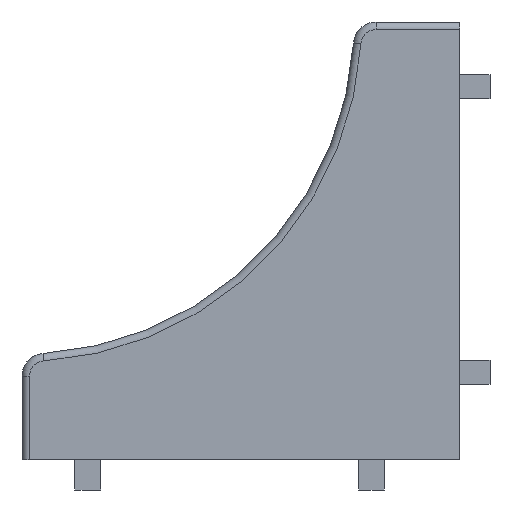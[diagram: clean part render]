
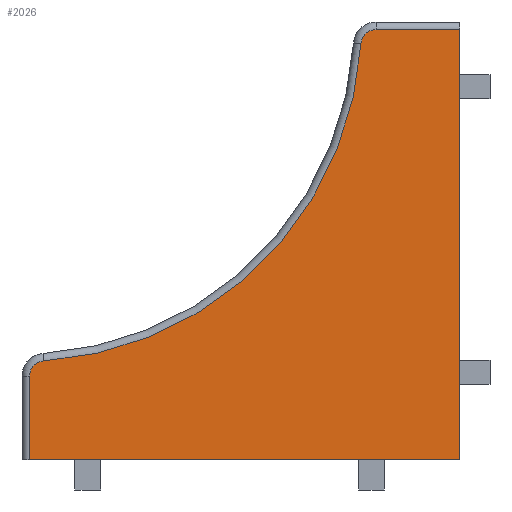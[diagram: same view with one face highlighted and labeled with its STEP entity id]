
A CAD part, left-side view. The second image highlights one B-rep face of the part: STEP entity #2026.
In plain terms, the highlighted planar face has unit normal (-1, 0, 0).
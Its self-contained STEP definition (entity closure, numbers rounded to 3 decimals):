
#43 = VERTEX_POINT ( 'NONE', #3976 ) ;
#117 = VERTEX_POINT ( 'NONE', #4040 ) ;
#136 = VERTEX_POINT ( 'NONE', #3972 ) ;
#148 = VERTEX_POINT ( 'NONE', #4048 ) ;
#303 = VERTEX_POINT ( 'NONE', #4250 ) ;
#401 = VERTEX_POINT ( 'NONE', #4264 ) ;
#406 = VERTEX_POINT ( 'NONE', #4576 ) ;
#973 = AXIS2_PLACEMENT_3D ( 'NONE', #4987, #5026, #5193 ) ;
#1006 = AXIS2_PLACEMENT_3D ( 'NONE', #5131, #5215, #5141 ) ;
#1732 = EDGE_CURVE ( 'NONE', #406, #303, #3523, .T. ) ;
#1743 = EDGE_CURVE ( 'NONE', #43, #136, #3591, .T. ) ;
#1747 = EDGE_CURVE ( 'NONE', #148, #43, #3259, .T. ) ;
#1759 = EDGE_CURVE ( 'NONE', #148, #406, #3441, .T. ) ;
#1794 = DIRECTION ( 'NONE',  ( 0., 0., -1. ) ) ;
#1807 = DIRECTION ( 'NONE',  ( -1., 0., 0. ) ) ;
#1885 = DIRECTION ( 'NONE',  ( 1., 0., 0. ) ) ;
#1909 = CARTESIAN_POINT ( 'NONE',  ( -27.5, 28.5, 0. ) ) ;
#1938 = CARTESIAN_POINT ( 'NONE',  ( -27.5, 29., 29. ) ) ;
#1943 = DIRECTION ( 'NONE',  ( 0., 0., 1. ) ) ;
#1961 = DIRECTION ( 'NONE',  ( 0., 0., 1. ) ) ;
#2001 = CARTESIAN_POINT ( 'NONE',  ( -27.5, 27.5, 5.548 ) ) ;
#2026 = ADVANCED_FACE ( 'NONE', ( #3218 ), #5091, .T. ) ;
#2268 = EDGE_CURVE ( 'NONE', #136, #117, #4756, .T. ) ;
#2276 = EDGE_CURVE ( 'NONE', #401, #303, #4617, .T. ) ;
#2279 = EDGE_CURVE ( 'NONE', #117, #401, #4589, .T. ) ;
#2367 = ORIENTED_EDGE ( 'NONE', *, *, #1732, .F. ) ;
#2470 = ORIENTED_EDGE ( 'NONE', *, *, #2276, .T. ) ;
#2472 = ORIENTED_EDGE ( 'NONE', *, *, #2279, .T. ) ;
#2474 = ORIENTED_EDGE ( 'NONE', *, *, #2268, .T. ) ;
#2476 = ORIENTED_EDGE ( 'NONE', *, *, #1743, .T. ) ;
#2478 = ORIENTED_EDGE ( 'NONE', *, *, #1747, .T. ) ;
#2480 = ORIENTED_EDGE ( 'NONE', *, *, #1759, .F. ) ;
#3015 = EDGE_LOOP ( 'NONE', ( #2480, #2478, #2476, #2474, #2472, #2470, #2367 ) ) ;
#3181 = AXIS2_PLACEMENT_3D ( 'NONE', #1938, #1885, #1961 ) ;
#3187 = AXIS2_PLACEMENT_3D ( 'NONE', #2001, #1807, #1943 ) ;
#3218 = FACE_OUTER_BOUND ( 'NONE', #3015, .T. ) ;
#3259 = LINE ( 'NONE', #5184, #3489 ) ;
#3441 = LINE ( 'NONE', #4945, #3659 ) ;
#3489 = VECTOR ( 'NONE', #5090, 1000. ) ;
#3523 = LINE ( 'NONE', #4925, #3607 ) ;
#3591 = CIRCLE ( 'NONE', #973, 1. ) ;
#3607 = VECTOR ( 'NONE', #4955, 1000. ) ;
#3659 = VECTOR ( 'NONE', #4894, 1000. ) ;
#3972 = CARTESIAN_POINT ( 'NONE',  ( -27.5, 6.546, 27.564 ) ) ;
#3976 = CARTESIAN_POINT ( 'NONE',  ( -27.5, 5.548, 28.5 ) ) ;
#4040 = CARTESIAN_POINT ( 'NONE',  ( -27.5, 27.564, 6.546 ) ) ;
#4048 = CARTESIAN_POINT ( 'NONE',  ( -27.5, 0., 28.5 ) ) ;
#4250 = CARTESIAN_POINT ( 'NONE',  ( -27.5, 28.5, 0. ) ) ;
#4264 = CARTESIAN_POINT ( 'NONE',  ( -27.5, 28.5, 5.548 ) ) ;
#4576 = CARTESIAN_POINT ( 'NONE',  ( -27.5, 0., 0. ) ) ;
#4589 = CIRCLE ( 'NONE', #3187, 1. ) ;
#4617 = LINE ( 'NONE', #1909, #4678 ) ;
#4678 = VECTOR ( 'NONE', #1794, 1000. ) ;
#4756 = CIRCLE ( 'NONE', #3181, 22.5 ) ;
#4894 = DIRECTION ( 'NONE',  ( 0., 0., -1. ) ) ;
#4925 = CARTESIAN_POINT ( 'NONE',  ( -27.5, 29., 0. ) ) ;
#4945 = CARTESIAN_POINT ( 'NONE',  ( -27.5, 0., 0. ) ) ;
#4955 = DIRECTION ( 'NONE',  ( 0., 1., 0. ) ) ;
#4987 = CARTESIAN_POINT ( 'NONE',  ( -27.5, 5.548, 27.5 ) ) ;
#5026 = DIRECTION ( 'NONE',  ( -1., 0., 0. ) ) ;
#5090 = DIRECTION ( 'NONE',  ( 0., 1., 0. ) ) ;
#5091 = PLANE ( 'NONE',  #1006 ) ;
#5131 = CARTESIAN_POINT ( 'NONE',  ( -27.5, 0., 0. ) ) ;
#5141 = DIRECTION ( 'NONE',  ( 0., 0., 1. ) ) ;
#5184 = CARTESIAN_POINT ( 'NONE',  ( -27.5, 5.548, 28.5 ) ) ;
#5193 = DIRECTION ( 'NONE',  ( 0., 0., 1. ) ) ;
#5215 = DIRECTION ( 'NONE',  ( -1., 0., 0. ) ) ;
